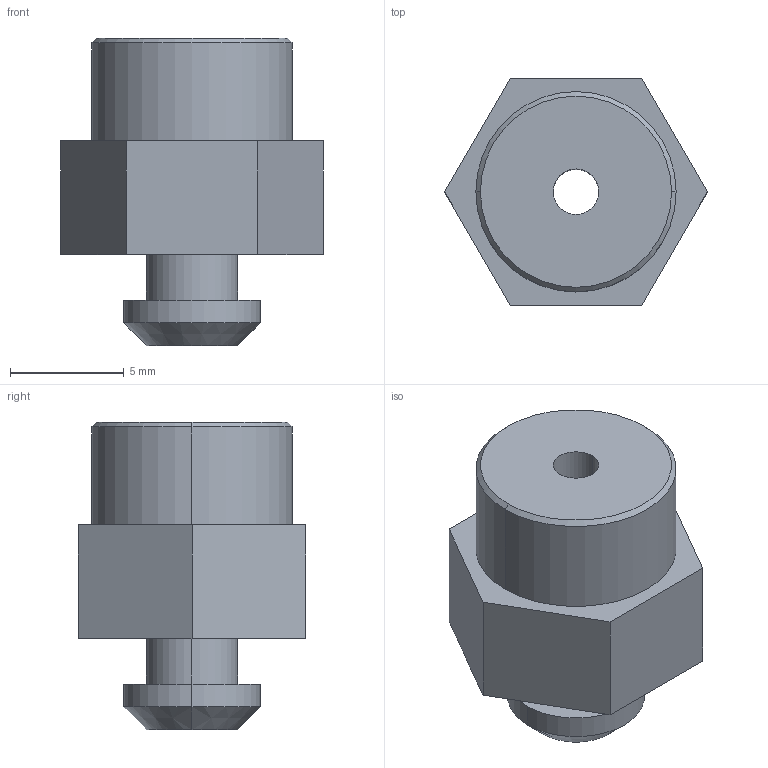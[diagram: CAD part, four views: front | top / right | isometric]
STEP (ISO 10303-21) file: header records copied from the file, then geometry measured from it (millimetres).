
FILE_DESCRIPTION (( 'STEP AP214' ), '1' );
FILE_NAME ('VM30-G18.STEP', '2023-03-07T08:09:12', ( 'Windows User' ), ( 'P R C' ), 'SwSTEP 2.0', 'SolidWorks 2019', '' );
FILE_SCHEMA (( 'AUTOMOTIVE_DESIGN' ));
Length unit declared in the file: millimetre
Products named in the file (1): VM30-G18
Bounding box: 11.55 x 10 x 13.5 mm (x, y, z)
Volume: 736.9 mm3; surface area: 627.3 mm2
Topology: 1 solids, 1 shells, 25 faces, 54 edges, 34 vertices
Faces by surface type: plane 11, cylinder 8, cone 6
Entity records: 720 total; most frequent: DIRECTION 128, CARTESIAN_POINT 114, ORIENTED_EDGE 108, EDGE_CURVE 54, AXIS2_PLACEMENT_3D 48, VERTEX_POINT 34, LINE 32, VECTOR 32
